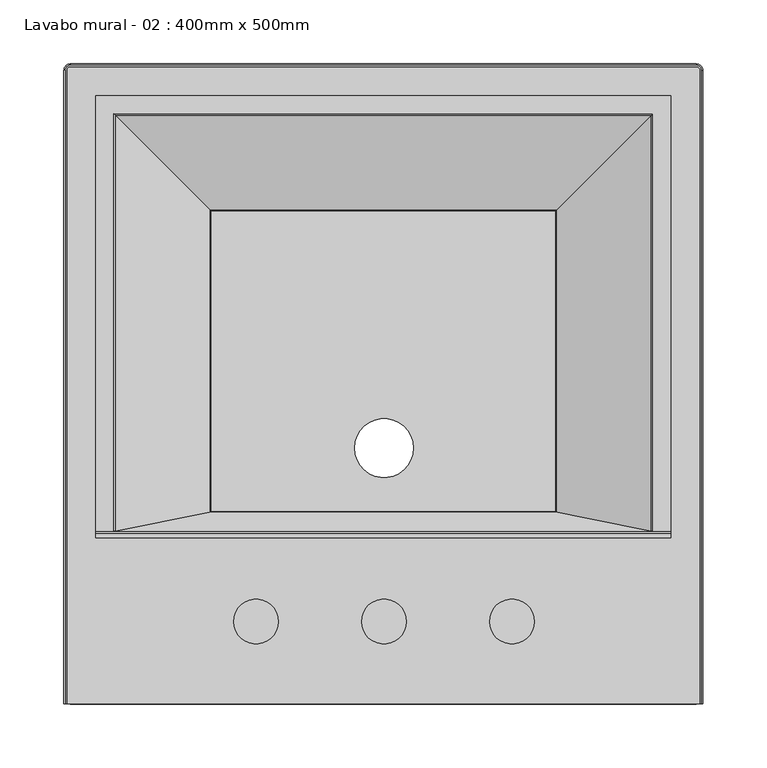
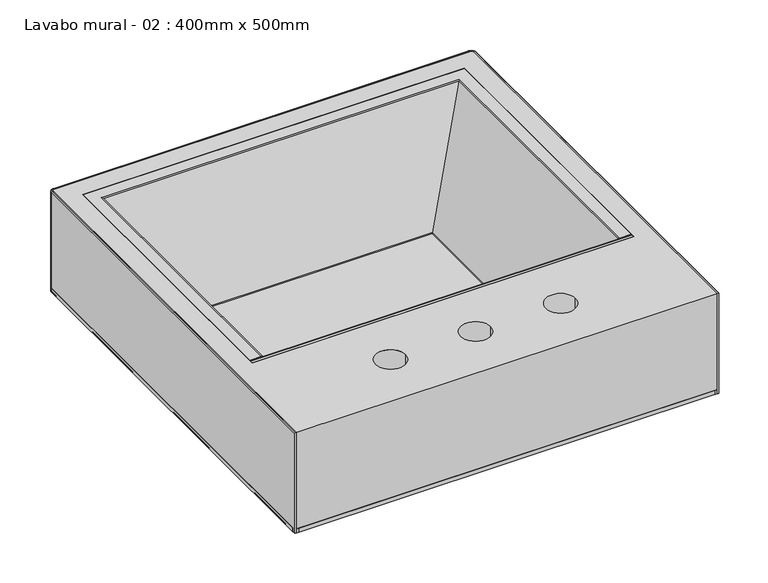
"""IFC4 building model written with IfcOpenShell, lengths in millimetres: flow terminal geometry, Lavabo mural - 02 : 400mm x 500mm."""

from ifc_helpers import new_model, si_unit, point, frame, frame_2d, origin, place, context, project, spatial, polyline, circle_curve, ellipse_curve, trimmed, segment, composite_curve, outline, extrude, source, transform, mapped, element, save
from ifc_brep_helpers import plane_surface, cylinder_surface, revolved_surface, advanced_brep


def lavabo_mural_02_400mm_x_500mm_58a97094(model_context):
    return source(origin(), model_context, "Body", "SolidModel", [
        extrude(outline(composite_curve([segment(trimmed(circle_curve(frame_2d((-119.4895, 530.0)), 5.0), [point((-124.4895, 530.0))], [point((-119.4895, 535.0))], False, "CARTESIAN"), True, "CONTINUOUS"), segment(polyline([(-119.4895, 535.0), (369.4895, 535.0)]), True, "CONTINUOUS"), segment(trimmed(circle_curve(frame_2d((369.4895, 530.0)), 5.0), [point((369.4895, 535.0))], [point((374.4895, 530.0))], False, "CARTESIAN"), True, "CONTINUOUS"), segment(polyline([(374.4895, 530.0), (374.4895, 40.0)]), True, "CONTINUOUS"), segment(trimmed(circle_curve(frame_2d((369.4895, 40.0)), 5.0), [point((374.4895, 40.0))], [point((369.4895, 35.0))], False, "CARTESIAN"), True, "CONTINUOUS"), segment(polyline([(369.4895, 35.0), (-119.4895, 35.0)]), True, "CONTINUOUS"), segment(trimmed(circle_curve(frame_2d((-119.4895, 40.0)), 5.0), [point((-119.4895, 35.0))], [point((-124.4895, 40.0))], False, "CARTESIAN"), True, "CONTINUOUS"), segment(polyline([(-124.4895, 40.0), (-124.4895, 530.0)]), True, "CONTINUOUS")], self_intersect=False), holes=[composite_curve([segment(trimmed(circle_curve(frame_2d((125.5105, 235.0)), 23.0), [point((148.5105, 235.0))], [point((102.5105, 235.0))], True, "CARTESIAN"), True, "CONTINUOUS"), segment(trimmed(circle_curve(frame_2d((125.5105, 235.0)), 23.0), [point((102.5105, 235.0))], [point((148.5105, 235.0))], True, "CARTESIAN"), True, "CONTINUOUS")], self_intersect=False)]), frame((0.0, 0.0, 624.95758), z_axis=(0.0, 0.0, 1.0), x_axis=(1.0, 0.0, 0.0)), (0.0, 0.0, 1.0), 5.04242),
        advanced_brep(
        [(-123.4895, 35.0, 750.0), (-124.4895, 35.0, 749.0), (-124.4895, 35.0, 626.0), (-123.4895, 35.0, 625.0), (-122.4895, 35.0, 625.0), (-122.4895, 35.0, 750.0), (-123.4895, 530.0, 750.0), (-124.4895, 530.0, 749.0), (-124.4895, 530.0, 626.0), (-123.4895, 530.0, 625.0), (-119.4895, 534.0, 625.0), (369.4895, 534.0, 625.0), (373.4895, 530.0, 625.0), (373.4895, 35.0, 625.0), (372.4895, 35.0, 625.0), (372.4895, 530.0, 625.0), (369.4895, 533.0, 625.0), (-119.4895, 533.0, 625.0), (-122.4895, 530.0, 625.0), (-122.4895, 530.0, 750.0), (-119.4895, 533.0, 750.0), (369.4895, 533.0, 750.0), (372.4895, 530.0, 750.0), (372.4895, 35.0, 750.0), (373.4895, 35.0, 750.0), (373.4895, 530.0, 750.0), (369.4895, 534.0, 750.0), (-119.4895, 534.0, 750.0), (-119.4895, 535.0, 749.0), (-119.4895, 535.0, 626.0), (369.4895, 535.0, 749.0), (369.4895, 535.0, 626.0), (374.4895, 530.0, 749.0), (374.4895, 530.0, 626.0), (374.4895, 35.0, 626.0), (374.4895, 35.0, 749.0)],
        [
            (0, 1, circle_curve(frame((-123.4895, 35.0, 749.0), z_axis=(0.0, -1.0, 0.0), x_axis=(-1.0, 0.0, 0.0)), 1.0)),
            (1, 2),
            (2, 3, circle_curve(frame((-123.4895, 35.0, 626.0), z_axis=(0.0, -1.0, 0.0), x_axis=(-1.0, 0.0, 0.0)), 1.0)),
            (3, 4),
            (4, 5),
            (5, 0),
            (0, 6),
            (6, 7, circle_curve(frame((-123.4895, 530.0, 749.0), z_axis=(0.0, -1.0, 0.0), x_axis=(-1.0, 0.0, 0.0)), 1.0)),
            (7, 1),
            (7, 8),
            (8, 2),
            (8, 9, circle_curve(frame((-123.4895, 530.0, 626.0), z_axis=(0.0, -1.0, 0.0), x_axis=(-1.0, 0.0, 0.0)), 1.0)),
            (9, 3),
            (9, 10, circle_curve(frame((-119.4895, 530.0, 625.0), z_axis=(0.0, 0.0, -1.0), x_axis=(-1.0, 0.0, 0.0)), 4.0)),
            (10, 11),
            (11, 12, circle_curve(frame((369.4895, 530.0, 625.0), z_axis=(0.0, 0.0, -1.0), x_axis=(0.0, 1.0, 0.0)), 4.0)),
            (12, 13),
            (13, 14),
            (14, 15),
            (15, 16, circle_curve(frame((369.4895, 530.0, 625.0), z_axis=(0.0, 0.0, 1.0), x_axis=(0.0, 1.0, 0.0)), 3.0)),
            (16, 17),
            (17, 18, circle_curve(frame((-119.4895, 530.0, 625.0), z_axis=(0.0, 0.0, 1.0), x_axis=(-1.0, 0.0, 0.0)), 3.0)),
            (18, 4),
            (18, 19),
            (19, 5),
            (19, 20, circle_curve(frame((-119.4895, 530.0, 750.0), z_axis=(0.0, 0.0, -1.0), x_axis=(-1.0, 0.0, 0.0)), 3.0)),
            (20, 21),
            (21, 22, circle_curve(frame((369.4895, 530.0, 750.0), z_axis=(0.0, 0.0, -1.0), x_axis=(0.0, 1.0, 0.0)), 3.0)),
            (22, 23),
            (23, 24),
            (24, 25),
            (25, 26, circle_curve(frame((369.4895, 530.0, 750.0), z_axis=(0.0, 0.0, 1.0), x_axis=(0.0, 1.0, 0.0)), 4.0)),
            (26, 27),
            (27, 6, circle_curve(frame((-119.4895, 530.0, 750.0), z_axis=(0.0, 0.0, 1.0), x_axis=(-1.0, 0.0, 0.0)), 4.0)),
            (28, 7, circle_curve(frame((-119.4895, 530.0, 749.0), z_axis=(0.0, 0.0, 1.0), x_axis=(-1.0, 0.0, 0.0)), 5.0)),
            (27, 28, circle_curve(frame((-119.4895, 534.0, 749.0), z_axis=(-1.0, 0.0, 0.0), x_axis=(0.0, 1.0, 0.0)), 1.0)),
            (29, 8, circle_curve(frame((-119.4895, 530.0, 626.0), z_axis=(0.0, 0.0, 1.0), x_axis=(-1.0, 0.0, 0.0)), 5.0)),
            (28, 29),
            (29, 10, circle_curve(frame((-119.4895, 534.0, 626.0), z_axis=(-1.0, 0.0, 0.0), x_axis=(0.0, 1.0, 0.0)), 1.0)),
            (17, 20),
            (26, 30, circle_curve(frame((369.4895, 534.0, 749.0), z_axis=(-1.0, 0.0, 0.0), x_axis=(0.0, 1.0, 0.0)), 1.0)),
            (30, 28),
            (30, 31),
            (31, 29),
            (31, 11, circle_curve(frame((369.4895, 534.0, 626.0), z_axis=(-1.0, 0.0, 0.0), x_axis=(0.0, 1.0, 0.0)), 1.0)),
            (16, 21),
            (32, 30, circle_curve(frame((369.4895, 530.0, 749.0), z_axis=(0.0, 0.0, 1.0), x_axis=(0.0, 1.0, 0.0)), 5.0)),
            (25, 32, circle_curve(frame((373.4895, 530.0, 749.0), z_axis=(0.0, 1.0, 0.0), x_axis=(1.0, 0.0, 0.0)), 1.0)),
            (33, 31, circle_curve(frame((369.4895, 530.0, 626.0), z_axis=(0.0, 0.0, 1.0), x_axis=(0.0, 1.0, 0.0)), 5.0)),
            (32, 33),
            (33, 12, circle_curve(frame((373.4895, 530.0, 626.0), z_axis=(0.0, 1.0, 0.0), x_axis=(1.0, 0.0, 0.0)), 1.0)),
            (15, 22),
            (23, 14),
            (13, 34, circle_curve(frame((373.4895, 35.0, 626.0), z_axis=(0.0, -1.0, 0.0), x_axis=(1.0, 0.0, 0.0)), 1.0)),
            (34, 35),
            (35, 24, circle_curve(frame((373.4895, 35.0, 749.0), z_axis=(0.0, -1.0, 0.0), x_axis=(1.0, 0.0, 0.0)), 1.0)),
            (35, 32),
            (34, 33),
        ],
        [
            plane_surface(frame((-124.4895, 35.0, 630.0), z_axis=(0.0, -1.0, 0.0), x_axis=(0.0, 0.0, 1.0))),
            cylinder_surface(frame((-123.4895, 35.0, 749.0), z_axis=(0.0, -1.0, 0.0), x_axis=(-1.0, 0.0, 0.0)), 1.0),
            plane_surface(frame((-124.4895, 35.0, 749.0), z_axis=(-1.0, 0.0, 0.0), x_axis=(0.0, 1.0, 0.0))),
            cylinder_surface(frame((-123.4895, 35.0, 626.0), z_axis=(0.0, -1.0, 0.0), x_axis=(-1.0, 0.0, 0.0)), 1.0),
            plane_surface(frame((-123.4895, 35.0, 625.0), z_axis=(0.0, 0.0, -1.0), x_axis=(0.0, 1.0, 0.0))),
            plane_surface(frame((-122.4895, 35.0, 625.0), z_axis=(1.0, 0.0, 0.0), x_axis=(0.0, 1.0, 0.0))),
            plane_surface(frame((-122.4895, 35.0, 750.0), z_axis=(0.0, 0.0, 1.0), x_axis=(0.0, 1.0, 0.0))),
            revolved_surface(trimmed(ellipse_curve(frame((-123.4895, 530.0, 749.0), z_axis=(0.0, -1.0, 0.0), x_axis=(-1.0, 0.0, 0.0)), 1.0, 1.0), [point((-123.4895, 530.0, 750.0))], [point((-124.4895, 530.0, 749.0))], True, "CARTESIAN"), (-119.4895, 530.0, 630.0), (0.0, 0.0, -1.0)),
            cylinder_surface(frame((-119.4895, 530.0, 630.0), z_axis=(0.0, 0.0, -1.0), x_axis=(-1.0, 0.0, 0.0)), 5.0),
            revolved_surface(trimmed(ellipse_curve(frame((-123.4895, 530.0, 626.0), z_axis=(0.0, -1.0, 0.0), x_axis=(-1.0, 0.0, 0.0)), 1.0, 1.0), [point((-124.4895, 530.0, 626.0))], [point((-123.4895, 530.0, 625.0))], True, "CARTESIAN"), (-119.4895, 530.0, 630.0), (0.0, 0.0, -1.0)),
            revolved_surface(polyline([(-122.4895, 530.0, 625.0), (-122.4895, 530.0, 750.0)]), (-119.4895, 530.0, 630.0), (0.0, 0.0, -1.0)),
            cylinder_surface(frame((-119.4895, 534.0, 749.0), z_axis=(-1.0, 0.0, 0.0), x_axis=(0.0, 1.0, 0.0)), 1.0),
            plane_surface(frame((-119.4895, 535.0, 749.0), z_axis=(0.0, 1.0, 0.0), x_axis=(1.0, 0.0, 0.0))),
            cylinder_surface(frame((-119.4895, 534.0, 626.0), z_axis=(-1.0, 0.0, 0.0), x_axis=(0.0, 1.0, 0.0)), 1.0),
            plane_surface(frame((-119.4895, 533.0, 625.0), z_axis=(0.0, -1.0, 0.0), x_axis=(1.0, 0.0, 0.0))),
            revolved_surface(trimmed(ellipse_curve(frame((369.4895, 534.0, 749.0), z_axis=(-1.0, 0.0, 0.0), x_axis=(0.0, 1.0, 0.0)), 1.0, 1.0), [point((369.4895, 534.0, 750.0))], [point((369.4895, 535.0, 749.0))], True, "CARTESIAN"), (369.4895, 530.0, 630.0), (0.0, 0.0, -1.0)),
            cylinder_surface(frame((369.4895, 530.0, 630.0), z_axis=(0.0, 0.0, -1.0), x_axis=(0.0, 1.0, 0.0)), 5.0),
            revolved_surface(trimmed(ellipse_curve(frame((369.4895, 534.0, 626.0), z_axis=(-1.0, 0.0, 0.0), x_axis=(0.0, 1.0, 0.0)), 1.0, 1.0), [point((369.4895, 535.0, 626.0))], [point((369.4895, 534.0, 625.0))], True, "CARTESIAN"), (369.4895, 530.0, 630.0), (0.0, 0.0, -1.0)),
            revolved_surface(polyline([(369.4895, 533.0, 625.0), (369.4895, 533.0, 750.0)]), (369.4895, 530.0, 630.0), (0.0, 0.0, -1.0)),
            plane_surface(frame((374.4895, 35.0, 630.0), z_axis=(0.0, -1.0, 0.0), x_axis=(0.0, 0.0, 1.0))),
            cylinder_surface(frame((373.4895, 530.0, 749.0), z_axis=(0.0, 1.0, 0.0), x_axis=(1.0, 0.0, 0.0)), 1.0),
            plane_surface(frame((374.4895, 530.0, 749.0), z_axis=(1.0, 0.0, 0.0), x_axis=(0.0, -1.0, 0.0))),
            cylinder_surface(frame((373.4895, 530.0, 626.0), z_axis=(0.0, 1.0, 0.0), x_axis=(1.0, 0.0, 0.0)), 1.0),
            plane_surface(frame((372.4895, 530.0, 625.0), z_axis=(-1.0, 0.0, 0.0), x_axis=(0.0, -1.0, 0.0))),
        ],
        [
            (0, [[1, 2, 3, 4, 5, 6]]),
            (1, [[-1, 7, 8, 9]]),
            (2, [[-2, -9, 10, 11]]),
            (3, [[-3, -11, 12, 13]]),
            (4, [[-4, -13, 14, 15, 16, 17, 18, 19, 20, 21, 22, 23]]),
            (5, [[-5, -23, 24, 25]]),
            (6, [[-6, -25, 26, 27, 28, 29, 30, 31, 32, 33, 34, -7]]),
            (7, [[35, -8, -34, 36]]),
            (8, [[37, -10, -35, 38]]),
            (9, [[-14, -12, -37, 39]]),
            (10, [[-26, -24, -22, 40]]),
            (11, [[-36, -33, 41, 42]]),
            (12, [[-38, -42, 43, 44]]),
            (13, [[-39, -44, 45, -15]]),
            (14, [[-40, -21, 46, -27]]),
            (15, [[47, -41, -32, 48]]),
            (16, [[49, -43, -47, 50]]),
            (17, [[-16, -45, -49, 51]]),
            (18, [[-28, -46, -20, 52]]),
            (19, [[-30, 53, -18, 54, 55, 56]]),
            (20, [[-48, -31, -56, 57]]),
            (21, [[-50, -57, -55, 58]]),
            (22, [[-51, -58, -54, -17]]),
            (23, [[-52, -19, -53, -29]]),
        ],
    ),
        extrude(outline(composite_curve([segment(trimmed(circle_curve(frame_2d((369.4895, 530.0)), 3.0), [point((369.4895, 533.0))], [point((372.4895, 530.0))], False, "CARTESIAN"), True, "CONTINUOUS"), segment(polyline([(372.4895, 530.0), (372.4895, 35.0), (-122.4895, 35.0), (-122.4895, 530.0)]), True, "CONTINUOUS"), segment(trimmed(circle_curve(frame_2d((-119.4895, 530.0)), 3.0), [point((-122.4895, 530.0))], [point((-119.4895, 533.0))], False, "CARTESIAN"), True, "CONTINUOUS"), segment(polyline([(-119.4895, 533.0), (369.4895, 533.0)]), True, "CONTINUOUS")], self_intersect=False), holes=[composite_curve([segment(trimmed(circle_curve(frame_2d((25.51071, 99.360641)), 17.5), [point((8.01071, 99.360641))], [point((43.01071, 99.360641))], True, "CARTESIAN"), True, "CONTINUOUS"), segment(trimmed(circle_curve(frame_2d((25.51071, 99.360641)), 17.5), [point((43.01071, 99.360641))], [point((8.01071, 99.360641))], True, "CARTESIAN"), True, "CONTINUOUS")], self_intersect=False), composite_curve([segment(trimmed(circle_curve(frame_2d((125.51071, 99.360641)), 17.5), [point((108.01071, 99.360641))], [point((143.01071, 99.360641))], True, "CARTESIAN"), True, "CONTINUOUS"), segment(trimmed(circle_curve(frame_2d((125.51071, 99.360641)), 17.5), [point((143.01071, 99.360641))], [point((108.01071, 99.360641))], True, "CARTESIAN"), True, "CONTINUOUS")], self_intersect=False), composite_curve([segment(trimmed(circle_curve(frame_2d((225.51071, 99.360641)), 17.5), [point((243.01071, 99.360641))], [point((208.01071, 99.360641))], True, "CARTESIAN"), True, "CONTINUOUS"), segment(trimmed(circle_curve(frame_2d((225.51071, 99.360641)), 17.5), [point((208.01071, 99.360641))], [point((243.01071, 99.360641))], True, "CARTESIAN"), True, "CONTINUOUS")], self_intersect=False), polyline([(-99.4895, 510.0), (-99.4895, 165.0), (349.4895, 165.0), (349.4895, 510.0), (-99.4895, 510.0)])]), frame((0.0, 0.0, 630.0), z_axis=(0.0, 0.0, 1.0), x_axis=(1.0, 0.0, 0.0)), (0.0, 0.0, 1.0), 120.0),
        extrude(outline(composite_curve([segment(polyline([(170.1022771, 748.2507881), (184.827107, 631.7492119)]), True, "CONTINUOUS"), segment(trimmed(circle_curve(frame_2d((186.811321, 632.0)), 2.0), [point((184.827107, 631.7492119))], [point((186.811321, 630.0))], True, "CARTESIAN"), True, "CONTINUOUS"), segment(polyline([(186.811321, 630.0), (190.6855127, 630.0), (190.6855127, 624.95758), (180.6855127, 624.95758), (164.8811913, 750.0), (168.1180631, 750.0)]), True, "CONTINUOUS"), segment(trimmed(circle_curve(frame_2d((168.1180631, 748.0)), 2.0), [point((168.1180631, 750.0))], [point((170.1022771, 748.2507881))], False, "CARTESIAN"), True, "CONTINUOUS")], self_intersect=False)), frame((-99.4895, 0.0, 0.0), z_axis=(1.0, 0.0, 0.0), x_axis=(0.0, 1.0, 0.0)), (0.0, 0.0, 1.0), 448.979),
        advanced_brep(
        [(-99.4895, 170.0, 750.0), (-99.4895, 170.0, 745.0), (-87.260742, 170.0, 745.0), (-12.2344223, 170.0, 624.95758), (-4.1362711, 170.0, 624.95758), (-4.1362711, 170.0, 630.0), (-8.381196, 170.0, 630.0), (-10.0771938, 170.0, 630.9400041), (-83.901999, 170.0, 749.0599959), (-85.5979968, 170.0, 750.0), (-99.4895, 510.0, 750.0), (-99.4895, 510.0, 745.0), (349.4895, 510.0, 745.0), (349.4895, 170.0, 745.0), (337.260742, 170.0, 745.0), (337.260742, 497.771242, 745.0), (-87.260742, 497.771242, 745.0), (-12.2344223, 422.7449223, 624.95758), (262.2344223, 422.7449223, 624.95758), (262.2344223, 170.0, 624.95758), (254.1362711, 170.0, 624.95758), (254.1362711, 414.6467711, 624.95758), (-4.1362711, 414.6467711, 624.95758), (-4.1362711, 414.6467711, 630.0), (254.1362711, 414.6467711, 630.0), (254.1362711, 170.0, 630.0), (258.381196, 170.0, 630.0), (258.381196, 418.891696, 630.0), (-8.381196, 418.891696, 630.0), (-10.0771938, 420.5876938, 630.9400041), (-83.901999, 494.412499, 749.0599959), (-85.5979968, 496.1084968, 750.0), (335.5979968, 496.1084968, 750.0), (335.5979968, 170.0, 750.0), (349.4895, 170.0, 750.0), (349.4895, 510.0, 750.0), (260.0771938, 420.5876938, 630.9400041), (333.901999, 494.412499, 749.0599959), (333.901999, 170.0, 749.0599959), (260.0771938, 170.0, 630.9400041)],
        [
            (0, 1),
            (1, 2),
            (2, 3),
            (3, 4),
            (4, 5),
            (5, 6),
            (6, 7, circle_curve(frame((-8.381196, 170.0, 632.0), z_axis=(0.0, 1.0, 0.0), x_axis=(-1.0, 0.0, 0.0)), 2.0)),
            (7, 8),
            (8, 9, circle_curve(frame((-85.5979968, 170.0, 748.0), z_axis=(0.0, -1.0, 0.0), x_axis=(-1.0, 0.0, 0.0)), 2.0)),
            (9, 0),
            (0, 10),
            (10, 11),
            (11, 1),
            (11, 12),
            (12, 13),
            (13, 14),
            (14, 15),
            (15, 16),
            (16, 2),
            (16, 17),
            (17, 3),
            (17, 18),
            (18, 19),
            (19, 20),
            (20, 21),
            (21, 22),
            (22, 4),
            (22, 23),
            (23, 5),
            (23, 24),
            (24, 25),
            (25, 26),
            (26, 27),
            (27, 28),
            (28, 6),
            (28, 29, ellipse_curve(frame((-8.381196, 418.891696, 632.0), z_axis=(0.7071067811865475, 0.7071067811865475, 0.0), x_axis=(-0.7071067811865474, 0.7071067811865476, 0.0)), 2.8284271, 2.0)),
            (29, 7),
            (29, 30),
            (30, 8),
            (30, 31, ellipse_curve(frame((-85.5979968, 496.1084968, 748.0), z_axis=(-0.7071067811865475, -0.7071067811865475, 0.0), x_axis=(0.7071067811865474, -0.7071067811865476, 0.0)), 2.8284271, 2.0)),
            (31, 9),
            (31, 32),
            (32, 33),
            (33, 34),
            (34, 35),
            (35, 10),
            (35, 12),
            (15, 18),
            (21, 24),
            (27, 36, ellipse_curve(frame((258.381196, 418.891696, 632.0), z_axis=(0.7071067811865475, -0.7071067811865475, 0.0), x_axis=(0.7071067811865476, 0.7071067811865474, 0.0)), 2.8284271, 2.0)),
            (36, 29),
            (36, 37),
            (37, 30),
            (37, 32, ellipse_curve(frame((335.5979968, 496.1084968, 748.0), z_axis=(-0.7071067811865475, 0.7071067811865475, 0.0), x_axis=(-0.7071067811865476, -0.7071067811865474, 0.0)), 2.8284271, 2.0)),
            (33, 38, circle_curve(frame((335.5979968, 170.0, 748.0), z_axis=(0.0, -1.0, 0.0), x_axis=(1.0, 0.0, 0.0)), 2.0)),
            (38, 39),
            (39, 26, circle_curve(frame((258.381196, 170.0, 632.0), z_axis=(0.0, 1.0, 0.0), x_axis=(1.0, 0.0, 0.0)), 2.0)),
            (25, 20),
            (19, 14),
            (13, 34),
            (39, 36),
            (38, 37),
        ],
        [
            plane_surface(frame((-99.4895, 170.0, 630.0), z_axis=(0.0, -1.0, 0.0), x_axis=(0.0, 0.0, 1.0))),
            plane_surface(frame((-99.4895, 170.0, 750.0), z_axis=(-1.0, 0.0, 0.0), x_axis=(0.0, 1.0, 0.0))),
            plane_surface(frame((-99.4895, 170.0, 745.0), z_axis=(0.0, 0.0, -1.0), x_axis=(0.0, 1.0, 0.0))),
            plane_surface(frame((-87.260742, 170.0, 745.0), z_axis=(-0.8479989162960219, 0.0, -0.5299979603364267), x_axis=(0.0, 1.0, 0.0))),
            plane_surface(frame((-12.2344223, 170.0, 624.95758), z_axis=(0.0, 0.0, -1.0), x_axis=(0.0, 1.0, 0.0))),
            plane_surface(frame((-4.1362711, 170.0, 624.95758), z_axis=(1.0, 0.0, 0.0), x_axis=(0.0, 1.0, 0.0))),
            plane_surface(frame((-4.1362711, 170.0, 630.0), z_axis=(0.0, 0.0, 1.0), x_axis=(0.0, 1.0, 0.0))),
            revolved_surface(polyline([(-10.381196, 420.8916959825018, 632.0), (-10.381196, 170.0, 632.0)]), (-8.381196, 170.0, 632.0), (0.0, 1.0, 0.0)),
            plane_surface(frame((-10.0771938, 170.0, 630.9400041), z_axis=(0.8479989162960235, 0.0, 0.529997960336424), x_axis=(0.0, 1.0, 0.0))),
            cylinder_surface(frame((-85.5979968, 170.0, 748.0), z_axis=(0.0, -1.0, 0.0), x_axis=(-1.0, 0.0, 0.0)), 2.0),
            plane_surface(frame((-85.5979968, 170.0, 750.0), z_axis=(0.0, 0.0, 1.0), x_axis=(0.0, 1.0, 0.0))),
            plane_surface(frame((-99.4895, 510.0, 750.0), z_axis=(0.0, 1.0, 0.0), x_axis=(1.0, 0.0, 0.0))),
            plane_surface(frame((-87.260742, 497.771242, 745.0), z_axis=(0.0, 0.8479989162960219, -0.5299979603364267), x_axis=(1.0, 0.0, 0.0))),
            plane_surface(frame((-4.1362711, 414.6467711, 624.95758), z_axis=(0.0, -1.0, 0.0), x_axis=(1.0, 0.0, 0.0))),
            revolved_surface(polyline([(260.38119598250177, 420.891696, 632.0), (-10.381195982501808, 420.891696, 632.0)]), (-99.4895, 418.891696, 632.0), (1.0, 0.0, 0.0)),
            plane_surface(frame((-10.0771938, 420.5876938, 630.9400041), z_axis=(0.0, -0.8479989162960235, 0.529997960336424), x_axis=(1.0, 0.0, 0.0))),
            cylinder_surface(frame((-99.4895, 496.1084968, 748.0), z_axis=(-1.0, 0.0, 0.0), x_axis=(0.0, 1.0, 0.0)), 2.0),
            plane_surface(frame((349.4895, 170.0, 630.0), z_axis=(0.0, -1.0, 0.0), x_axis=(0.0, 0.0, 1.0))),
            plane_surface(frame((349.4895, 510.0, 750.0), z_axis=(1.0, 0.0, 0.0), x_axis=(0.0, -1.0, 0.0))),
            plane_surface(frame((337.260742, 497.771242, 745.0), z_axis=(0.8479989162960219, 0.0, -0.5299979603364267), x_axis=(0.0, -1.0, 0.0))),
            plane_surface(frame((254.1362711, 414.6467711, 624.95758), z_axis=(-1.0, 0.0, 0.0), x_axis=(0.0, -1.0, 0.0))),
            revolved_surface(polyline([(260.381196, 170.0, 632.0), (260.381196, 420.8916959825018, 632.0)]), (258.381196, 510.0, 632.0), (0.0, -1.0, 0.0)),
            plane_surface(frame((260.0771938, 420.5876938, 630.9400041), z_axis=(-0.8479989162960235, 0.0, 0.529997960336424), x_axis=(0.0, -1.0, 0.0))),
            cylinder_surface(frame((335.5979968, 510.0, 748.0), z_axis=(0.0, 1.0, 0.0), x_axis=(1.0, 0.0, 0.0)), 2.0),
        ],
        [
            (0, [[1, 2, 3, 4, 5, 6, 7, 8, 9, 10]]),
            (1, [[-1, 11, 12, 13]]),
            (2, [[-2, -13, 14, 15, 16, 17, 18, 19]]),
            (3, [[-3, -19, 20, 21]]),
            (4, [[-4, -21, 22, 23, 24, 25, 26, 27]]),
            (5, [[-5, -27, 28, 29]]),
            (6, [[-6, -29, 30, 31, 32, 33, 34, 35]]),
            (7, [[-7, -35, 36, 37]]),
            (8, [[-8, -37, 38, 39]]),
            (9, [[-9, -39, 40, 41]]),
            (10, [[-10, -41, 42, 43, 44, 45, 46, -11]]),
            (11, [[-12, -46, 47, -14]]),
            (12, [[-20, -18, 48, -22]]),
            (13, [[-28, -26, 49, -30]]),
            (14, [[-36, -34, 50, 51]]),
            (15, [[-38, -51, 52, 53]]),
            (16, [[-40, -53, 54, -42]]),
            (17, [[-44, 55, 56, 57, -32, 58, -24, 59, -16, 60]]),
            (18, [[-47, -45, -60, -15]]),
            (19, [[-48, -17, -59, -23]]),
            (20, [[-49, -25, -58, -31]]),
            (21, [[-50, -33, -57, 61]]),
            (22, [[-52, -61, -56, 62]]),
            (23, [[-54, -62, -55, -43]]),
        ],
    ),
    ])


if __name__ == "__main__":
    model = new_model("IFC4")
    model_context = context("Model", 3, world=origin())
    ifc_project = project(units=[si_unit("LENGTHUNIT", "METRE", prefix="MILLI")], contexts=[model_context])
    site = spatial("IfcSite", under=ifc_project)
    building = spatial("IfcBuilding", under=site)
    placement = place(None, origin())
    lavabo_mural_02_400mm_x_500mm_shape = lavabo_mural_02_400mm_x_500mm_58a97094(model_context)
    element("IfcFlowTerminal", 1, ObjectType="Lavabo mural - 02 : 400mm x 500mm", at=placement, inside=building, context=model_context, shape_type="MappedRepresentation", body=[
        mapped(lavabo_mural_02_400mm_x_500mm_shape, transform((0.0, 0.0, 0.0), x_axis=(1.0, 0.0, 0.0), y_axis=(0.0, 1.0, 0.0), z_axis=(0.0, 0.0, 1.0))),
    ])
    save(model, "model.ifc")
